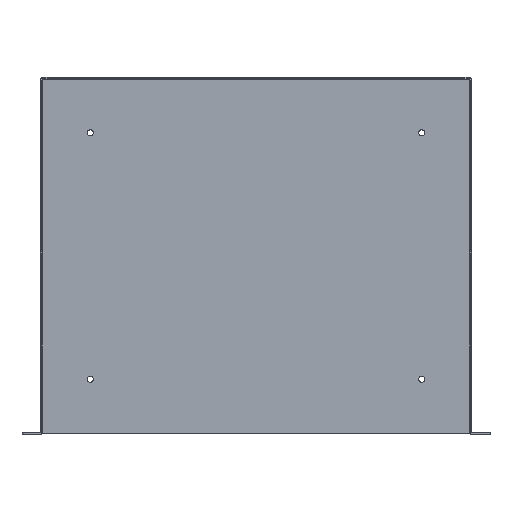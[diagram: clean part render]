
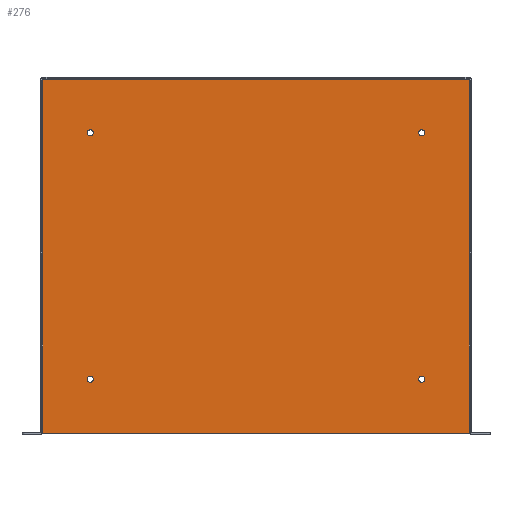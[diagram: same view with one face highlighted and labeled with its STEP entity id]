
A CAD part, top view. The second image highlights one B-rep face of the part: STEP entity #276.
In plain terms, the highlighted planar face has unit normal (0, 0, 1).
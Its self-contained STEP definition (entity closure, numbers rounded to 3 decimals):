
#276 = ADVANCED_FACE( '', ( #590, #591, #592, #593, #594 ), #595, .F. );
#590 = FACE_BOUND( '', #1071, .T. );
#591 = FACE_BOUND( '', #1072, .T. );
#592 = FACE_BOUND( '', #1073, .T. );
#593 = FACE_BOUND( '', #1074, .T. );
#594 = FACE_OUTER_BOUND( '', #1075, .T. );
#595 = PLANE( '', #1076 );
#1071 = EDGE_LOOP( '', ( #1867 ) );
#1072 = EDGE_LOOP( '', ( #1868 ) );
#1073 = EDGE_LOOP( '', ( #1869 ) );
#1074 = EDGE_LOOP( '', ( #1870 ) );
#1075 = EDGE_LOOP( '', ( #1871, #1872, #1873, #1874 ) );
#1076 = AXIS2_PLACEMENT_3D( '', #1875, #1876, #1877 );
#1867 = ORIENTED_EDGE( '', *, *, #2239, .F. );
#1868 = ORIENTED_EDGE( '', *, *, #2420, .F. );
#1869 = ORIENTED_EDGE( '', *, *, #2435, .F. );
#1870 = ORIENTED_EDGE( '', *, *, #2436, .F. );
#1871 = ORIENTED_EDGE( '', *, *, #2427, .F. );
#1872 = ORIENTED_EDGE( '', *, *, #2405, .T. );
#1873 = ORIENTED_EDGE( '', *, *, #2437, .F. );
#1874 = ORIENTED_EDGE( '', *, *, #2433, .T. );
#1875 = CARTESIAN_POINT( '', ( -222.25, 183.426, 1.448 ) );
#1876 = DIRECTION( '', ( 0., 0., -1. ) );
#1877 = DIRECTION( '', ( -1., 0., 0. ) );
#2239 = EDGE_CURVE( '', #2713, #2713, #2714, .T. );
#2405 = EDGE_CURVE( '', #2731, #2622, #2948, .T. );
#2420 = EDGE_CURVE( '', #2963, #2963, #2964, .T. );
#2427 = EDGE_CURVE( '', #2731, #2972, #2973, .T. );
#2433 = EDGE_CURVE( '', #2606, #2972, #2979, .T. );
#2435 = EDGE_CURVE( '', #2981, #2981, #2982, .T. );
#2436 = EDGE_CURVE( '', #2983, #2983, #2984, .T. );
#2437 = EDGE_CURVE( '', #2606, #2622, #2985, .T. );
#2606 = VERTEX_POINT( '', #3220 );
#2622 = VERTEX_POINT( '', #3242 );
#2713 = VERTEX_POINT( '', #3432 );
#2714 = CIRCLE( '', #3433, 3.175 );
#2731 = VERTEX_POINT( '', #3454 );
#2948 = LINE( '', #3822, #3823 );
#2963 = VERTEX_POINT( '', #3844 );
#2964 = CIRCLE( '', #3845, 3.175 );
#2972 = VERTEX_POINT( '', #3855 );
#2973 = LINE( '', #3856, #3857 );
#2979 = LINE( '', #3865, #3866 );
#2981 = VERTEX_POINT( '', #3868 );
#2982 = CIRCLE( '', #3869, 3.175 );
#2983 = VERTEX_POINT( '', #3870 );
#2984 = CIRCLE( '', #3871, 3.175 );
#2985 = LINE( '', #3872, #3873 );
#3220 = CARTESIAN_POINT( '', ( -220.066, -183.426, 1.448 ) );
#3242 = CARTESIAN_POINT( '', ( -220.066, 181.242, 1.448 ) );
#3432 = CARTESIAN_POINT( '', ( -167.869, 126.276, 1.448 ) );
#3433 = AXIS2_PLACEMENT_3D( '', #4071, #4072, #4073 );
#3454 = CARTESIAN_POINT( '', ( 220.066, 181.242, 1.448 ) );
#3822 = CARTESIAN_POINT( '', ( -220.064, 181.242, 1.448 ) );
#3823 = VECTOR( '', #4276, 1000. );
#3844 = CARTESIAN_POINT( '', ( 174.219, -127.724, 1.448 ) );
#3845 = AXIS2_PLACEMENT_3D( '', #4286, #4287, #4288 );
#3855 = CARTESIAN_POINT( '', ( 220.066, -183.426, 1.448 ) );
#3856 = CARTESIAN_POINT( '', ( 220.066, 183.426, 1.448 ) );
#3857 = VECTOR( '', #4294, 1000. );
#3865 = CARTESIAN_POINT( '', ( -222.25, -183.426, 1.448 ) );
#3866 = VECTOR( '', #4300, 1000. );
#3868 = CARTESIAN_POINT( '', ( 174.219, 126.276, 1.448 ) );
#3869 = AXIS2_PLACEMENT_3D( '', #4301, #4302, #4303 );
#3870 = CARTESIAN_POINT( '', ( -167.869, -127.724, 1.448 ) );
#3871 = AXIS2_PLACEMENT_3D( '', #4304, #4305, #4306 );
#3872 = CARTESIAN_POINT( '', ( -220.066, -183.426, 1.448 ) );
#3873 = VECTOR( '', #4307, 1000. );
#4071 = CARTESIAN_POINT( '', ( -171.044, 126.276, 1.448 ) );
#4072 = DIRECTION( '', ( 0., 0., 1. ) );
#4073 = DIRECTION( '', ( 1., 0., 0. ) );
#4276 = DIRECTION( '', ( -1., 0., 0. ) );
#4286 = CARTESIAN_POINT( '', ( 171.044, -127.724, 1.448 ) );
#4287 = DIRECTION( '', ( 0., 0., 1. ) );
#4288 = DIRECTION( '', ( 1., 0., 0. ) );
#4294 = DIRECTION( '', ( 0., -1., 0. ) );
#4300 = DIRECTION( '', ( 1., 0., 0. ) );
#4301 = CARTESIAN_POINT( '', ( 171.044, 126.276, 1.448 ) );
#4302 = DIRECTION( '', ( 0., 0., 1. ) );
#4303 = DIRECTION( '', ( 1., 0., 0. ) );
#4304 = CARTESIAN_POINT( '', ( -171.044, -127.724, 1.448 ) );
#4305 = DIRECTION( '', ( 0., 0., 1. ) );
#4306 = DIRECTION( '', ( 1., 0., 0. ) );
#4307 = DIRECTION( '', ( 0., 1., 0. ) );
